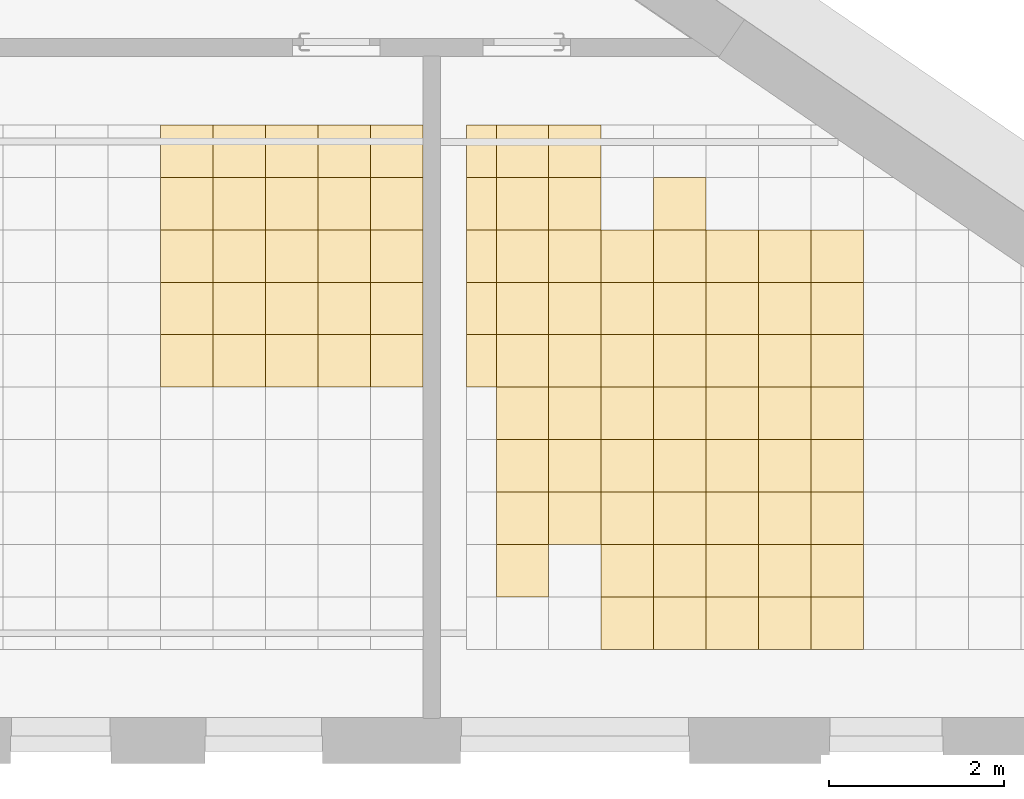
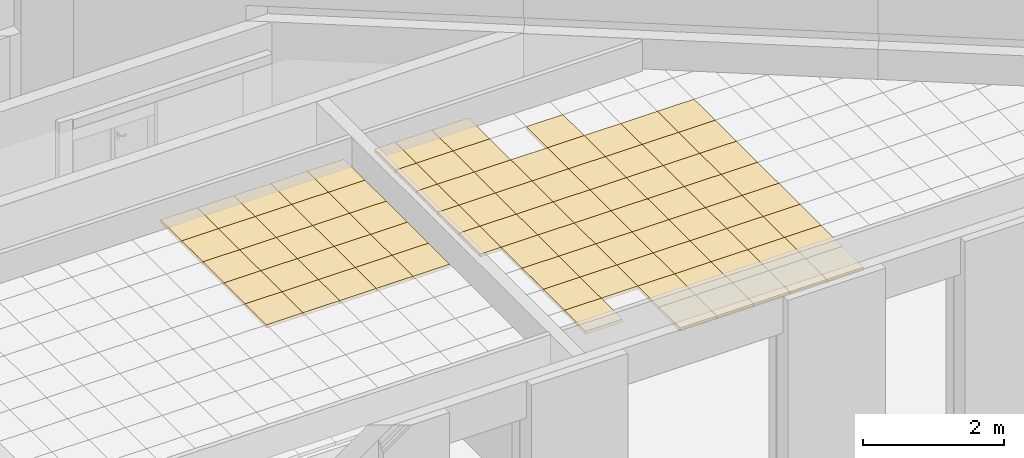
# One storey, part 75 of 79: 88 coverings.
"""IFC2X3 building model written with IfcOpenShell, lengths in millimetres."""

from ifc_helpers import new_model, entity, si_unit, converted_unit, derived_unit, money_unit, direction, frame, origin_with_axes, place, context, subcontext, project, spatial, faceted_brep, material, material_list, type_object, element, save


model = new_model("IFC2X3")

# Units and contexts
model_context = context("Model", 3, precision=0.01, world=origin_with_axes(), true_north=direction((0.0, 1.0)))
body_context = subcontext(model_context, "Body", "Model", "MODEL_VIEW")
ifc_project = project(units=[si_unit("LENGTHUNIT", "METRE", prefix="MILLI"), si_unit("AREAUNIT", "SQUARE_METRE"), si_unit("VOLUMEUNIT", "CUBIC_METRE"), converted_unit("PLANEANGLEUNIT", "DEGREE", entity("IfcPlaneAngleMeasure", 0.0174532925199), si_unit("PLANEANGLEUNIT", "RADIAN"), dimensions=[0, 0, 0, 0, 0, 0, 0]), si_unit("SOLIDANGLEUNIT", "STERADIAN"), money_unit("EUR"), converted_unit("TIMEUNIT", "Year", entity("IfcTimeMeasure", 31556926.0), si_unit("TIMEUNIT", "SECOND"), dimensions=[0, 0, 1, 0, 0, 0, 0]), si_unit("MASSUNIT", "GRAM", prefix="KILO"), si_unit("THERMODYNAMICTEMPERATUREUNIT", "DEGREE_CELSIUS"), si_unit("LUMINOUSINTENSITYUNIT", "LUMEN"), si_unit("ENERGYUNIT", "JOULE", prefix="MEGA"), derived_unit("THERMALCONDUCTANCEUNIT", [(si_unit("POWERUNIT", "WATT"), 1), (si_unit("LENGTHUNIT", "METRE"), -1), (si_unit("THERMODYNAMICTEMPERATUREUNIT", "KELVIN"), -1)]), derived_unit("SPECIFICHEATCAPACITYUNIT", [(si_unit("ENERGYUNIT", "JOULE"), 1), (si_unit("MASSUNIT", "GRAM", prefix="KILO"), -1), (si_unit("THERMODYNAMICTEMPERATUREUNIT", "KELVIN"), -1)]), derived_unit("MASSDENSITYUNIT", [(si_unit("MASSUNIT", "GRAM", prefix="KILO"), 1), (si_unit("VOLUMEUNIT", "CUBIC_METRE"), -1)])], contexts=[model_context])

# Site, building, storey
site_placement = place(None, origin_with_axes())
site = spatial("IfcSite", under=ifc_project, at=site_placement, Name="L.Koidula tn 11b", CompositionType="ELEMENT")
building_placement = place(site_placement, origin_with_axes())
building = spatial("IfcBuilding", under=site, at=building_placement, Name="Rakvere Riigigümnaasium", CompositionType="ELEMENT")
storey_placement = place(building_placement, frame((0.0, 0.0, 3720.0), z_axis=(0.0, 0.0, 1.0), x_axis=(1.0, 0.0, 0.0)))
storey = spatial("IfcBuildingStorey", under=building, at=storey_placement, Name="2.korrus +3,72", CompositionType="ELEMENT", Elevation=3720.0)

# Coverings
ifc_material_1 = material(Name="Karkass")
ifc_material_2 = material(Name="Kipsplaat")
ifc_material_list = material_list([ifc_material_1, ifc_material_2])
covering_type = type_object("IfcCoveringType", Name="SA-LV-Kips-moodul 55", PredefinedType="CEILING")
for number, where, z_axis, x_axis, name in (
    (1, (85469.744559, 9890.45359412, 2750.0), (0.0, 0.0, 1.0), (1.0, 0.0, 0.0), "L-03"),
    (2, (86669.7445073, 11690.4535941, 2750.0), (0.0, 0.0, 1.0), (1.0, 0.0, 0.0), "L-03"),
    (3, (86669.7445073, 9890.45359412, 2750.0), (0.0, 0.0, 1.0), (1.0, 0.0, 0.0), "L-03"),
    (4, (86669.7445073, 9290.45359412, 2750.0), (0.0, 0.0, 1.0), (1.0, 0.0, 0.0), "L-03"),
    (5, (87869.7444557, 9290.45359412, 2750.0), (0.0, 0.0, 1.0), (1.0, 0.0, 0.0), "L-03"),
    (6, (87869.7444557, 11090.4535941, 2750.0), (0.0, 0.0, 1.0), (1.0, 0.0, 0.0), "L-03"),
    (7, (87869.7444557, 9890.45359412, 2750.0), (0.0, 0.0, 1.0), (1.0, 0.0, 0.0), "L-03"),
    (8, (87869.7444557, 11690.4535941, 2750.0), (0.0, 0.0, 1.0), (1.0, 0.0, 0.0), "L-03"),
    (9, (87869.7444557, 10490.4535941, 2750.0), (0.0, 0.0, 1.0), (1.0, 0.0, 0.0), "L-03"),
):
    element("IfcCovering", number, at=place(storey_placement, frame(where, z_axis=z_axis, x_axis=x_axis)), inside=storey, type_object=covering_type, material=ifc_material_list, Name=name, PredefinedType="CEILING", context=body_context, shape_type="Brep", body=[
        faceted_brep([(600.0, 0.0, 12.5), (600.0, 0.0, 54.5), (0.0, 0.0, 54.5), (0.0, 0.0, 12.5), (600.0, 600.0, 12.5), (600.0, 600.0, 54.5), (0.0, 600.0, 54.5), (0.0, 600.0, 12.5)], [[[0, 1, 2, 3]], [[4, 5, 1, 0]], [[2, 1, 5, 6]], [[3, 2, 6, 7]], [[3, 7, 4, 0]], [[7, 6, 5, 4]]]),
        faceted_brep([(0.0, 0.0, 0.0), (600.0, 0.0, 0.0), (600.0, 0.0, 12.5), (0.0, 0.0, 12.5), (0.0, 600.0, 0.0), (600.0, 600.0, 0.0), (600.0, 600.0, 12.5), (0.0, 600.0, 12.5)], [[[0, 1, 2, 3]], [[0, 4, 5, 1]], [[1, 5, 6, 2]], [[3, 2, 6, 7]], [[4, 0, 3, 7]], [[5, 4, 7, 6]]]),
    ])
covering_1_placement = place(storey_placement, frame((87269.7445073, 11690.4535941, 2750.0), z_axis=(0.0, 0.0, 1.0), x_axis=(1.0, 0.0, 0.0)))
element("IfcCovering", 10, at=covering_1_placement, inside=storey, type_object=covering_type, material=ifc_material_list, Name="L-03", PredefinedType="CEILING", context=body_context, shape_type="Brep", body=[
    faceted_brep([(599.999948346, 0.0, 12.5), (599.999948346, 0.0, 54.5), (0.0, 0.0, 54.5), (0.0, 0.0, 12.5), (599.999948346, 600.0, 12.5), (599.999948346, 600.0, 54.5), (0.0, 600.0, 54.5), (0.0, 600.0, 12.5)], [[[0, 1, 2, 3]], [[4, 5, 1, 0]], [[2, 1, 5, 6]], [[3, 2, 6, 7]], [[3, 7, 4, 0]], [[7, 6, 5, 4]]]),
    faceted_brep([(0.0, 0.0, 0.0), (599.999948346, 0.0, 0.0), (599.999948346, 0.0, 12.5), (0.0, 0.0, 12.5), (0.0, 600.0, 0.0), (599.999948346, 600.0, 0.0), (599.999948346, 600.0, 12.5), (0.0, 600.0, 12.5)], [[[0, 1, 2, 3]], [[0, 4, 5, 1]], [[1, 5, 6, 2]], [[3, 2, 6, 7]], [[4, 0, 3, 7]], [[5, 4, 7, 6]]]),
])
covering_2_placement = place(storey_placement, frame((86669.7445073, 10490.4535941, 2750.0), z_axis=(0.0, 0.0, 1.0), x_axis=(1.0, 0.0, 0.0)))
element("IfcCovering", 11, at=covering_2_placement, inside=storey, type_object=covering_type, material=ifc_material_list, Name="L-03", PredefinedType="CEILING", context=body_context, shape_type="Brep", body=[
    faceted_brep([(600.0, 0.0, 12.5), (600.0, 0.0, 54.5), (0.0, 0.0, 54.5), (0.0, 0.0, 12.5), (600.0, 600.0, 12.5), (600.0, 600.0, 54.5), (0.0, 600.0, 54.5), (0.0, 600.0, 12.5)], [[[0, 1, 2, 3]], [[4, 5, 1, 0]], [[2, 1, 5, 6]], [[3, 2, 6, 7]], [[3, 7, 4, 0]], [[7, 6, 5, 4]]]),
    faceted_brep([(0.0, 0.0, 0.0), (600.0, 0.0, 0.0), (600.0, 0.0, 12.5), (0.0, 0.0, 12.5), (0.0, 600.0, 0.0), (600.0, 600.0, 0.0), (600.0, 600.0, 12.5), (0.0, 600.0, 12.5)], [[[0, 1, 2, 3]], [[0, 4, 5, 1]], [[1, 5, 6, 2]], [[3, 2, 6, 7]], [[4, 0, 3, 7]], [[5, 4, 7, 6]]]),
])
for number, where, z_axis, x_axis, name in (
    (12, (87269.7445073, 9290.45359412, 2750.0), (0.0, 0.0, 1.0), (1.0, 0.0, 0.0), "L-03"),
    (13, (87269.7445073, 9890.45359412, 2750.0), (0.0, 0.0, 1.0), (1.0, 0.0, 0.0), "L-03"),
    (14, (87269.7445073, 11090.4535941, 2750.0), (0.0, 0.0, 1.0), (1.0, 0.0, 0.0), "L-03"),
    (15, (87269.7445073, 10490.4535941, 2750.0), (0.0, 0.0, 1.0), (1.0, 0.0, 0.0), "L-03"),
):
    element("IfcCovering", number, at=place(storey_placement, frame(where, z_axis=z_axis, x_axis=x_axis)), inside=storey, type_object=covering_type, material=ifc_material_list, Name=name, PredefinedType="CEILING", context=body_context, shape_type="Brep", body=[
        faceted_brep([(599.999948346, 0.0, 12.5), (599.999948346, 0.0, 54.5), (0.0, 0.0, 54.5), (0.0, 0.0, 12.5), (599.999948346, 600.0, 12.5), (599.999948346, 600.0, 54.5), (0.0, 600.0, 54.5), (0.0, 600.0, 12.5)], [[[0, 1, 2, 3]], [[4, 5, 1, 0]], [[2, 1, 5, 6]], [[3, 2, 6, 7]], [[3, 7, 4, 0]], [[7, 6, 5, 4]]]),
        faceted_brep([(0.0, 0.0, 0.0), (599.999948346, 0.0, 0.0), (599.999948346, 0.0, 12.5), (0.0, 0.0, 12.5), (0.0, 600.0, 0.0), (599.999948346, 600.0, 0.0), (599.999948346, 600.0, 12.5), (0.0, 600.0, 12.5)], [[[0, 1, 2, 3]], [[0, 4, 5, 1]], [[1, 5, 6, 2]], [[3, 2, 6, 7]], [[4, 0, 3, 7]], [[5, 4, 7, 6]]]),
    ])
for number, where, z_axis, x_axis, name in (
    (16, (85469.744559, 9290.45359412, 2750.0), (0.0, 0.0, 1.0), (1.0, 0.0, 0.0), "L-03"),
    (17, (86669.7445073, 11090.4535941, 2750.0), (0.0, 0.0, 1.0), (1.0, 0.0, 0.0), "L-03"),
    (18, (85469.744559, 11690.4535941, 2750.0), (0.0, 0.0, 1.0), (1.0, 0.0, 0.0), "L-03"),
    (19, (85469.744559, 11090.4535941, 2750.0), (0.0, 0.0, 1.0), (1.0, 0.0, 0.0), "L-03"),
    (20, (85469.744559, 10490.4535941, 2750.0), (0.0, 0.0, 1.0), (1.0, 0.0, 0.0), "L-03"),
):
    element("IfcCovering", number, at=place(storey_placement, frame(where, z_axis=z_axis, x_axis=x_axis)), inside=storey, type_object=covering_type, material=ifc_material_list, Name=name, PredefinedType="CEILING", context=body_context, shape_type="Brep", body=[
        faceted_brep([(600.0, 0.0, 12.5), (600.0, 0.0, 54.5), (0.0, 0.0, 54.5), (0.0, 0.0, 12.5), (600.0, 600.0, 12.5), (600.0, 600.0, 54.5), (0.0, 600.0, 54.5), (0.0, 600.0, 12.5)], [[[0, 1, 2, 3]], [[4, 5, 1, 0]], [[2, 1, 5, 6]], [[3, 2, 6, 7]], [[3, 7, 4, 0]], [[7, 6, 5, 4]]]),
        faceted_brep([(0.0, 0.0, 0.0), (600.0, 0.0, 0.0), (600.0, 0.0, 12.5), (0.0, 0.0, 12.5), (0.0, 600.0, 0.0), (600.0, 600.0, 0.0), (600.0, 600.0, 12.5), (0.0, 600.0, 12.5)], [[[0, 1, 2, 3]], [[0, 4, 5, 1]], [[1, 5, 6, 2]], [[3, 2, 6, 7]], [[4, 0, 3, 7]], [[5, 4, 7, 6]]]),
    ])
for number, where, z_axis, x_axis, name in (
    (21, (86069.744559, 11690.4535941, 2750.0), (0.0, 0.0, 1.0), (1.0, 0.0, 0.0), "L-03"),
    (22, (86069.744559, 9290.45359412, 2750.0), (0.0, 0.0, 1.0), (1.0, 0.0, 0.0), "L-03"),
    (23, (86069.744559, 9890.45359412, 2750.0), (0.0, 0.0, 1.0), (1.0, 0.0, 0.0), "L-03"),
    (24, (86069.744559, 10490.4535941, 2750.0), (0.0, 0.0, 1.0), (1.0, 0.0, 0.0), "L-03"),
    (25, (86069.744559, 11090.4535941, 2750.0), (0.0, 0.0, 1.0), (1.0, 0.0, 0.0), "L-03"),
    (26, (91709.8850867, 9890.45359412, 2750.0), (0.0, 0.0, 1.0), (1.0, 0.0, 0.0), "L-03"),
):
    element("IfcCovering", number, at=place(storey_placement, frame(where, z_axis=z_axis, x_axis=x_axis)), inside=storey, type_object=covering_type, material=ifc_material_list, Name=name, PredefinedType="CEILING", context=body_context, shape_type="Brep", body=[
        faceted_brep([(599.999948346, 0.0, 12.5), (599.999948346, 0.0, 54.5), (0.0, 0.0, 54.5), (0.0, 0.0, 12.5), (599.999948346, 600.0, 12.5), (599.999948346, 600.0, 54.5), (0.0, 600.0, 54.5), (0.0, 600.0, 12.5)], [[[0, 1, 2, 3]], [[4, 5, 1, 0]], [[2, 1, 5, 6]], [[3, 2, 6, 7]], [[3, 7, 4, 0]], [[7, 6, 5, 4]]]),
        faceted_brep([(0.0, 0.0, 0.0), (599.999948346, 0.0, 0.0), (599.999948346, 0.0, 12.5), (0.0, 0.0, 12.5), (0.0, 600.0, 0.0), (599.999948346, 600.0, 0.0), (599.999948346, 600.0, 12.5), (0.0, 600.0, 12.5)], [[[0, 1, 2, 3]], [[0, 4, 5, 1]], [[1, 5, 6, 2]], [[3, 2, 6, 7]], [[4, 0, 3, 7]], [[5, 4, 7, 6]]]),
    ])
for number, where, z_axis, x_axis, name in (
    (27, (91109.8850867, 11090.4535941, 2750.0), (0.0, 0.0, 1.0), (1.0, 0.0, 0.0), "L-03"),
    (28, (91109.8850867, 10490.4535941, 2750.0), (0.0, 0.0, 1.0), (1.0, 0.0, 0.0), "L-03"),
    (29, (91109.8850867, 9890.45359412, 2750.0), (0.0, 0.0, 1.0), (1.0, 0.0, 0.0), "L-03"),
    (30, (91109.8850867, 9290.45359412, 2750.0), (0.0, 0.0, 1.0), (1.0, 0.0, 0.0), "L-03"),
    (31, (91109.8850867, 8690.45359412, 2750.0), (0.0, 0.0, 1.0), (1.0, 0.0, 0.0), "L-03"),
    (32, (91109.8850867, 8090.45359412, 2750.0), (0.0, 0.0, 1.0), (1.0, 0.0, 0.0), "L-03"),
    (33, (91109.8850867, 7490.45359412, 2750.0), (0.0, 0.0, 1.0), (1.0, 0.0, 0.0), "L-03"),
    (34, (92309.8850351, 6890.45359412, 2750.0), (0.0, 0.0, 1.0), (1.0, 0.0, 0.0), "L-03"),
):
    element("IfcCovering", number, at=place(storey_placement, frame(where, z_axis=z_axis, x_axis=x_axis)), inside=storey, type_object=covering_type, material=ifc_material_list, Name=name, PredefinedType="CEILING", context=body_context, shape_type="Brep", body=[
        faceted_brep([(600.0, 0.0, 12.5), (600.0, 0.0, 54.5), (0.0, 0.0, 54.5), (0.0, 0.0, 12.5), (600.0, 600.0, 12.5), (600.0, 600.0, 54.5), (0.0, 600.0, 54.5), (0.0, 600.0, 12.5)], [[[0, 1, 2, 3]], [[4, 5, 1, 0]], [[2, 1, 5, 6]], [[3, 2, 6, 7]], [[3, 7, 4, 0]], [[7, 6, 5, 4]]]),
        faceted_brep([(0.0, 0.0, 0.0), (600.0, 0.0, 0.0), (600.0, 0.0, 12.5), (0.0, 0.0, 12.5), (0.0, 600.0, 0.0), (600.0, 600.0, 0.0), (600.0, 600.0, 12.5), (0.0, 600.0, 12.5)], [[[0, 1, 2, 3]], [[0, 4, 5, 1]], [[1, 5, 6, 2]], [[3, 2, 6, 7]], [[4, 0, 3, 7]], [[5, 4, 7, 6]]]),
    ])
for number, where, z_axis, x_axis, name in (
    (35, (91709.8850867, 6890.45359412, 2750.0), (0.0, 0.0, 1.0), (1.0, 0.0, 0.0), "L-03"),
    (36, (91709.8850867, 6290.45359412, 2750.0), (0.0, 0.0, 1.0), (1.0, 0.0, 0.0), "L-03"),
):
    element("IfcCovering", number, at=place(storey_placement, frame(where, z_axis=z_axis, x_axis=x_axis)), inside=storey, type_object=covering_type, material=ifc_material_list, Name=name, PredefinedType="CEILING", context=body_context, shape_type="Brep", body=[
        faceted_brep([(599.999948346, 0.0, 12.5), (599.999948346, 0.0, 54.5), (0.0, 0.0, 54.5), (0.0, 0.0, 12.5), (599.999948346, 600.0, 12.5), (599.999948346, 600.0, 54.5), (0.0, 600.0, 54.5), (0.0, 600.0, 12.5)], [[[0, 1, 2, 3]], [[4, 5, 1, 0]], [[2, 1, 5, 6]], [[3, 2, 6, 7]], [[3, 7, 4, 0]], [[7, 6, 5, 4]]]),
        faceted_brep([(0.0, 0.0, 0.0), (599.999948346, 0.0, 0.0), (599.999948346, 0.0, 12.5), (0.0, 0.0, 12.5), (0.0, 600.0, 0.0), (599.999948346, 600.0, 0.0), (599.999948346, 600.0, 12.5), (0.0, 600.0, 12.5)], [[[0, 1, 2, 3]], [[0, 4, 5, 1]], [[1, 5, 6, 2]], [[3, 2, 6, 7]], [[4, 0, 3, 7]], [[5, 4, 7, 6]]]),
    ])
for number, where, z_axis, x_axis, name in (
    (37, (92309.8850351, 6290.45359412, 2750.0), (0.0, 0.0, 1.0), (1.0, 0.0, 0.0), "L-03"),
    (38, (92309.8850351, 10490.4535941, 2750.0), (0.0, 0.0, 1.0), (1.0, 0.0, 0.0), "L-03"),
    (39, (92309.8850351, 9890.45359412, 2750.0), (0.0, 0.0, 1.0), (1.0, 0.0, 0.0), "L-03"),
    (40, (92309.8850351, 8090.45359412, 2750.0), (0.0, 0.0, 1.0), (1.0, 0.0, 0.0), "L-03"),
    (41, (92309.8850351, 8690.45359412, 2750.0), (0.0, 0.0, 1.0), (1.0, 0.0, 0.0), "L-03"),
    (42, (92309.8850351, 9290.45359412, 2750.0), (0.0, 0.0, 1.0), (1.0, 0.0, 0.0), "L-03"),
):
    element("IfcCovering", number, at=place(storey_placement, frame(where, z_axis=z_axis, x_axis=x_axis)), inside=storey, type_object=covering_type, material=ifc_material_list, Name=name, PredefinedType="CEILING", context=body_context, shape_type="Brep", body=[
        faceted_brep([(600.0, 0.0, 12.5), (600.0, 0.0, 54.5), (0.0, 0.0, 54.5), (0.0, 0.0, 12.5), (600.0, 600.0, 12.5), (600.0, 600.0, 54.5), (0.0, 600.0, 54.5), (0.0, 600.0, 12.5)], [[[0, 1, 2, 3]], [[4, 5, 1, 0]], [[2, 1, 5, 6]], [[3, 2, 6, 7]], [[3, 7, 4, 0]], [[7, 6, 5, 4]]]),
        faceted_brep([(0.0, 0.0, 0.0), (600.0, 0.0, 0.0), (600.0, 0.0, 12.5), (0.0, 0.0, 12.5), (0.0, 600.0, 0.0), (600.0, 600.0, 0.0), (600.0, 600.0, 12.5), (0.0, 600.0, 12.5)], [[[0, 1, 2, 3]], [[0, 4, 5, 1]], [[1, 5, 6, 2]], [[3, 2, 6, 7]], [[4, 0, 3, 7]], [[5, 4, 7, 6]]]),
    ])
for number, where, z_axis, x_axis, name in (
    (43, (92909.8850351, 6290.45359412, 2750.0), (0.0, 0.0, 1.0), (1.0, 0.0, 0.0), "L-03"),
    (44, (92909.8850351, 6890.45359412, 2750.0), (0.0, 0.0, 1.0), (1.0, 0.0, 0.0), "L-03"),
    (45, (91709.8850867, 8090.45359412, 2750.0), (0.0, 0.0, 1.0), (1.0, 0.0, 0.0), "L-03"),
):
    element("IfcCovering", number, at=place(storey_placement, frame(where, z_axis=z_axis, x_axis=x_axis)), inside=storey, type_object=covering_type, material=ifc_material_list, Name=name, PredefinedType="CEILING", context=body_context, shape_type="Brep", body=[
        faceted_brep([(599.999948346, 0.0, 12.5), (599.999948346, 0.0, 54.5), (0.0, 0.0, 54.5), (0.0, 0.0, 12.5), (599.999948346, 600.0, 12.5), (599.999948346, 600.0, 54.5), (0.0, 600.0, 54.5), (0.0, 600.0, 12.5)], [[[0, 1, 2, 3]], [[4, 5, 1, 0]], [[2, 1, 5, 6]], [[3, 2, 6, 7]], [[3, 7, 4, 0]], [[7, 6, 5, 4]]]),
        faceted_brep([(0.0, 0.0, 0.0), (599.999948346, 0.0, 0.0), (599.999948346, 0.0, 12.5), (0.0, 0.0, 12.5), (0.0, 600.0, 0.0), (599.999948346, 600.0, 0.0), (599.999948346, 600.0, 12.5), (0.0, 600.0, 12.5)], [[[0, 1, 2, 3]], [[0, 4, 5, 1]], [[1, 5, 6, 2]], [[3, 2, 6, 7]], [[4, 0, 3, 7]], [[5, 4, 7, 6]]]),
    ])
covering_3_placement = place(storey_placement, frame((92309.8850351, 7490.45359412, 2750.0), z_axis=(0.0, 0.0, 1.0), x_axis=(1.0, 0.0, 0.0)))
element("IfcCovering", 46, at=covering_3_placement, inside=storey, type_object=covering_type, material=ifc_material_list, Name="L-03", PredefinedType="CEILING", context=body_context, shape_type="Brep", body=[
    faceted_brep([(600.0, 0.0, 12.5), (600.0, 0.0, 54.5), (0.0, 0.0, 54.5), (0.0, 0.0, 12.5), (600.0, 600.0, 12.5), (600.0, 600.0, 54.5), (0.0, 600.0, 54.5), (0.0, 600.0, 12.5)], [[[0, 1, 2, 3]], [[4, 5, 1, 0]], [[2, 1, 5, 6]], [[3, 2, 6, 7]], [[3, 7, 4, 0]], [[7, 6, 5, 4]]]),
    faceted_brep([(0.0, 0.0, 0.0), (600.0, 0.0, 0.0), (600.0, 0.0, 12.5), (0.0, 0.0, 12.5), (0.0, 600.0, 0.0), (600.0, 600.0, 0.0), (600.0, 600.0, 12.5), (0.0, 600.0, 12.5)], [[[0, 1, 2, 3]], [[0, 4, 5, 1]], [[1, 5, 6, 2]], [[3, 2, 6, 7]], [[4, 0, 3, 7]], [[5, 4, 7, 6]]]),
])
for number, where, z_axis, x_axis, name in (
    (47, (91709.8850867, 7490.45359412, 2750.0), (0.0, 0.0, 1.0), (1.0, 0.0, 0.0), "L-03"),
    (48, (91709.8850867, 8690.45359412, 2750.0), (0.0, 0.0, 1.0), (1.0, 0.0, 0.0), "L-03"),
):
    element("IfcCovering", number, at=place(storey_placement, frame(where, z_axis=z_axis, x_axis=x_axis)), inside=storey, type_object=covering_type, material=ifc_material_list, Name=name, PredefinedType="CEILING", context=body_context, shape_type="Brep", body=[
        faceted_brep([(599.999948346, 0.0, 12.5), (599.999948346, 0.0, 54.5), (0.0, 0.0, 54.5), (0.0, 0.0, 12.5), (599.999948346, 600.0, 12.5), (599.999948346, 600.0, 54.5), (0.0, 600.0, 54.5), (0.0, 600.0, 12.5)], [[[0, 1, 2, 3]], [[4, 5, 1, 0]], [[2, 1, 5, 6]], [[3, 2, 6, 7]], [[3, 7, 4, 0]], [[7, 6, 5, 4]]]),
        faceted_brep([(0.0, 0.0, 0.0), (599.999948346, 0.0, 0.0), (599.999948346, 0.0, 12.5), (0.0, 0.0, 12.5), (0.0, 600.0, 0.0), (599.999948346, 600.0, 0.0), (599.999948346, 600.0, 12.5), (0.0, 600.0, 12.5)], [[[0, 1, 2, 3]], [[0, 4, 5, 1]], [[1, 5, 6, 2]], [[3, 2, 6, 7]], [[4, 0, 3, 7]], [[5, 4, 7, 6]]]),
    ])
covering_4_placement = place(storey_placement, frame((91109.8850867, 6890.45359412, 2750.0), z_axis=(0.0, 0.0, 1.0), x_axis=(1.0, 0.0, 0.0)))
element("IfcCovering", 49, at=covering_4_placement, inside=storey, type_object=covering_type, material=ifc_material_list, Name="L-03", PredefinedType="CEILING", context=body_context, shape_type="Brep", body=[
    faceted_brep([(600.0, 0.0, 12.5), (600.0, 0.0, 54.5), (0.0, 0.0, 54.5), (0.0, 0.0, 12.5), (600.0, 600.0, 12.5), (600.0, 600.0, 54.5), (0.0, 600.0, 54.5), (0.0, 600.0, 12.5)], [[[0, 1, 2, 3]], [[4, 5, 1, 0]], [[2, 1, 5, 6]], [[3, 2, 6, 7]], [[3, 7, 4, 0]], [[7, 6, 5, 4]]]),
    faceted_brep([(0.0, 0.0, 0.0), (600.0, 0.0, 0.0), (600.0, 0.0, 12.5), (0.0, 0.0, 12.5), (0.0, 600.0, 0.0), (600.0, 600.0, 0.0), (600.0, 600.0, 12.5), (0.0, 600.0, 12.5)], [[[0, 1, 2, 3]], [[0, 4, 5, 1]], [[1, 5, 6, 2]], [[3, 2, 6, 7]], [[4, 0, 3, 7]], [[5, 4, 7, 6]]]),
])
for number, where, z_axis, x_axis, name in (
    (50, (91709.8850867, 9290.45359412, 2750.0), (0.0, 0.0, 1.0), (1.0, 0.0, 0.0), "L-03"),
    (51, (91709.8850867, 10490.4535941, 2750.0), (0.0, 0.0, 1.0), (1.0, 0.0, 0.0), "L-03"),
    (52, (90509.8851384, 6290.45359412, 2750.0), (0.0, 0.0, 1.0), (1.0, 0.0, 0.0), "L-03"),
    (53, (92909.8850351, 10490.4535941, 2750.0), (0.0, 0.0, 1.0), (1.0, 0.0, 0.0), "L-03"),
    (54, (92909.8850351, 9290.45359412, 2750.0), (0.0, 0.0, 1.0), (1.0, 0.0, 0.0), "L-03"),
    (55, (92909.8850351, 9890.45359412, 2750.0), (0.0, 0.0, 1.0), (1.0, 0.0, 0.0), "L-03"),
):
    element("IfcCovering", number, at=place(storey_placement, frame(where, z_axis=z_axis, x_axis=x_axis)), inside=storey, type_object=covering_type, material=ifc_material_list, Name=name, PredefinedType="CEILING", context=body_context, shape_type="Brep", body=[
        faceted_brep([(599.999948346, 0.0, 12.5), (599.999948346, 0.0, 54.5), (0.0, 0.0, 54.5), (0.0, 0.0, 12.5), (599.999948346, 600.0, 12.5), (599.999948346, 600.0, 54.5), (0.0, 600.0, 54.5), (0.0, 600.0, 12.5)], [[[0, 1, 2, 3]], [[4, 5, 1, 0]], [[2, 1, 5, 6]], [[3, 2, 6, 7]], [[3, 7, 4, 0]], [[7, 6, 5, 4]]]),
        faceted_brep([(0.0, 0.0, 0.0), (599.999948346, 0.0, 0.0), (599.999948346, 0.0, 12.5), (0.0, 0.0, 12.5), (0.0, 600.0, 0.0), (599.999948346, 600.0, 0.0), (599.999948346, 600.0, 12.5), (0.0, 600.0, 12.5)], [[[0, 1, 2, 3]], [[0, 4, 5, 1]], [[1, 5, 6, 2]], [[3, 2, 6, 7]], [[4, 0, 3, 7]], [[5, 4, 7, 6]]]),
    ])
for number, where, z_axis, x_axis, name in (
    (56, (89909.8851384, 11690.4535941, 2750.0), (0.0, 0.0, 1.0), (1.0, 0.0, 0.0), "L-03"),
    (57, (89909.8851384, 11090.4535941, 2750.0), (0.0, 0.0, 1.0), (1.0, 0.0, 0.0), "L-03"),
):
    element("IfcCovering", number, at=place(storey_placement, frame(where, z_axis=z_axis, x_axis=x_axis)), inside=storey, type_object=covering_type, material=ifc_material_list, Name=name, PredefinedType="CEILING", context=body_context, shape_type="Brep", body=[
        faceted_brep([(600.0, 0.0, 12.5), (600.0, 0.0, 54.5), (0.0, 0.0, 54.5), (0.0, 0.0, 12.5), (600.0, 600.0, 12.5), (600.0, 600.0, 54.5), (0.0, 600.0, 54.5), (0.0, 600.0, 12.5)], [[[0, 1, 2, 3]], [[4, 5, 1, 0]], [[2, 1, 5, 6]], [[3, 2, 6, 7]], [[3, 7, 4, 0]], [[7, 6, 5, 4]]]),
        faceted_brep([(0.0, 0.0, 0.0), (600.0, 0.0, 0.0), (600.0, 0.0, 12.5), (0.0, 0.0, 12.5), (0.0, 600.0, 0.0), (600.0, 600.0, 0.0), (600.0, 600.0, 12.5), (0.0, 600.0, 12.5)], [[[0, 1, 2, 3]], [[0, 4, 5, 1]], [[1, 5, 6, 2]], [[3, 2, 6, 7]], [[4, 0, 3, 7]], [[5, 4, 7, 6]]]),
    ])
covering_5_placement = place(storey_placement, frame((92909.8850351, 8690.45359412, 2750.0), z_axis=(0.0, 0.0, 1.0), x_axis=(1.0, 0.0, 0.0)))
element("IfcCovering", 58, at=covering_5_placement, inside=storey, type_object=covering_type, material=ifc_material_list, Name="L-03", PredefinedType="CEILING", context=body_context, shape_type="Brep", body=[
    faceted_brep([(599.999948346, 0.0, 12.5), (599.999948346, 0.0, 54.5), (0.0, 0.0, 54.5), (0.0, 0.0, 12.5), (599.999948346, 600.0, 12.5), (599.999948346, 600.0, 54.5), (0.0, 600.0, 54.5), (0.0, 600.0, 12.5)], [[[0, 1, 2, 3]], [[4, 5, 1, 0]], [[2, 1, 5, 6]], [[3, 2, 6, 7]], [[3, 7, 4, 0]], [[7, 6, 5, 4]]]),
    faceted_brep([(0.0, 0.0, 0.0), (599.999948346, 0.0, 0.0), (599.999948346, 0.0, 12.5), (0.0, 0.0, 12.5), (0.0, 600.0, 0.0), (599.999948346, 600.0, 0.0), (599.999948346, 600.0, 12.5), (0.0, 600.0, 12.5)], [[[0, 1, 2, 3]], [[0, 4, 5, 1]], [[1, 5, 6, 2]], [[3, 2, 6, 7]], [[4, 0, 3, 7]], [[5, 4, 7, 6]]]),
])
for number, where, z_axis, x_axis, name in (
    (59, (89909.8851384, 10490.4535941, 2750.0), (0.0, 0.0, 1.0), (1.0, 0.0, 0.0), "L-03"),
    (60, (91109.8850867, 6290.45359412, 2750.0), (0.0, 0.0, 1.0), (1.0, 0.0, 0.0), "L-03"),
    (61, (89909.8851384, 9290.45359412, 2750.0), (0.0, 0.0, 1.0), (1.0, 0.0, 0.0), "L-03"),
    (62, (89909.8851384, 9890.45359412, 2750.0), (0.0, 0.0, 1.0), (1.0, 0.0, 0.0), "L-03"),
):
    element("IfcCovering", number, at=place(storey_placement, frame(where, z_axis=z_axis, x_axis=x_axis)), inside=storey, type_object=covering_type, material=ifc_material_list, Name=name, PredefinedType="CEILING", context=body_context, shape_type="Brep", body=[
        faceted_brep([(600.0, 0.0, 12.5), (600.0, 0.0, 54.5), (0.0, 0.0, 54.5), (0.0, 0.0, 12.5), (600.0, 600.0, 12.5), (600.0, 600.0, 54.5), (0.0, 600.0, 54.5), (0.0, 600.0, 12.5)], [[[0, 1, 2, 3]], [[4, 5, 1, 0]], [[2, 1, 5, 6]], [[3, 2, 6, 7]], [[3, 7, 4, 0]], [[7, 6, 5, 4]]]),
        faceted_brep([(0.0, 0.0, 0.0), (600.0, 0.0, 0.0), (600.0, 0.0, 12.5), (0.0, 0.0, 12.5), (0.0, 600.0, 0.0), (600.0, 600.0, 0.0), (600.0, 600.0, 12.5), (0.0, 600.0, 12.5)], [[[0, 1, 2, 3]], [[0, 4, 5, 1]], [[1, 5, 6, 2]], [[3, 2, 6, 7]], [[4, 0, 3, 7]], [[5, 4, 7, 6]]]),
    ])
for number, where, z_axis, x_axis, name in (
    (63, (92909.8850351, 7490.45359412, 2750.0), (0.0, 0.0, 1.0), (1.0, 0.0, 0.0), "L-03"),
    (64, (90509.8851384, 6890.45359412, 2750.0), (0.0, 0.0, 1.0), (1.0, 0.0, 0.0), "L-03"),
):
    element("IfcCovering", number, at=place(storey_placement, frame(where, z_axis=z_axis, x_axis=x_axis)), inside=storey, type_object=covering_type, material=ifc_material_list, Name=name, PredefinedType="CEILING", context=body_context, shape_type="Brep", body=[
        faceted_brep([(599.999948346, 0.0, 12.5), (599.999948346, 0.0, 54.5), (0.0, 0.0, 54.5), (0.0, 0.0, 12.5), (599.999948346, 600.0, 12.5), (599.999948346, 600.0, 54.5), (0.0, 600.0, 54.5), (0.0, 600.0, 12.5)], [[[0, 1, 2, 3]], [[4, 5, 1, 0]], [[2, 1, 5, 6]], [[3, 2, 6, 7]], [[3, 7, 4, 0]], [[7, 6, 5, 4]]]),
        faceted_brep([(0.0, 0.0, 0.0), (599.999948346, 0.0, 0.0), (599.999948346, 0.0, 12.5), (0.0, 0.0, 12.5), (0.0, 600.0, 0.0), (599.999948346, 600.0, 0.0), (599.999948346, 600.0, 12.5), (0.0, 600.0, 12.5)], [[[0, 1, 2, 3]], [[0, 4, 5, 1]], [[1, 5, 6, 2]], [[3, 2, 6, 7]], [[4, 0, 3, 7]], [[5, 4, 7, 6]]]),
    ])
for number, where, z_axis, x_axis, name in (
    (65, (89909.8851384, 7490.45359412, 2750.0), (0.0, 0.0, 1.0), (1.0, 0.0, 0.0), "L-03"),
    (66, (89909.8851384, 8090.45359412, 2750.0), (0.0, 0.0, 1.0), (1.0, 0.0, 0.0), "L-03"),
):
    element("IfcCovering", number, at=place(storey_placement, frame(where, z_axis=z_axis, x_axis=x_axis)), inside=storey, type_object=covering_type, material=ifc_material_list, Name=name, PredefinedType="CEILING", context=body_context, shape_type="Brep", body=[
        faceted_brep([(600.0, 0.0, 12.5), (600.0, 0.0, 54.5), (0.0, 0.0, 54.5), (0.0, 0.0, 12.5), (600.0, 600.0, 12.5), (600.0, 600.0, 54.5), (0.0, 600.0, 54.5), (0.0, 600.0, 12.5)], [[[0, 1, 2, 3]], [[4, 5, 1, 0]], [[2, 1, 5, 6]], [[3, 2, 6, 7]], [[3, 7, 4, 0]], [[7, 6, 5, 4]]]),
        faceted_brep([(0.0, 0.0, 0.0), (600.0, 0.0, 0.0), (600.0, 0.0, 12.5), (0.0, 0.0, 12.5), (0.0, 600.0, 0.0), (600.0, 600.0, 0.0), (600.0, 600.0, 12.5), (0.0, 600.0, 12.5)], [[[0, 1, 2, 3]], [[0, 4, 5, 1]], [[1, 5, 6, 2]], [[3, 2, 6, 7]], [[4, 0, 3, 7]], [[5, 4, 7, 6]]]),
    ])
covering_6_placement = place(storey_placement, frame((92909.8850351, 8090.45359412, 2750.0), z_axis=(0.0, 0.0, 1.0), x_axis=(1.0, 0.0, 0.0)))
element("IfcCovering", 67, at=covering_6_placement, inside=storey, type_object=covering_type, material=ifc_material_list, Name="L-03", PredefinedType="CEILING", context=body_context, shape_type="Brep", body=[
    faceted_brep([(599.999948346, 0.0, 12.5), (599.999948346, 0.0, 54.5), (0.0, 0.0, 54.5), (0.0, 0.0, 12.5), (599.999948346, 600.0, 12.5), (599.999948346, 600.0, 54.5), (0.0, 600.0, 54.5), (0.0, 600.0, 12.5)], [[[0, 1, 2, 3]], [[4, 5, 1, 0]], [[2, 1, 5, 6]], [[3, 2, 6, 7]], [[3, 7, 4, 0]], [[7, 6, 5, 4]]]),
    faceted_brep([(0.0, 0.0, 0.0), (599.999948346, 0.0, 0.0), (599.999948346, 0.0, 12.5), (0.0, 0.0, 12.5), (0.0, 600.0, 0.0), (599.999948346, 600.0, 0.0), (599.999948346, 600.0, 12.5), (0.0, 600.0, 12.5)], [[[0, 1, 2, 3]], [[0, 4, 5, 1]], [[1, 5, 6, 2]], [[3, 2, 6, 7]], [[4, 0, 3, 7]], [[5, 4, 7, 6]]]),
])
covering_7_placement = place(storey_placement, frame((89909.8851384, 8690.45359412, 2750.0), z_axis=(0.0, 0.0, 1.0), x_axis=(1.0, 0.0, 0.0)))
element("IfcCovering", 68, at=covering_7_placement, inside=storey, type_object=covering_type, material=ifc_material_list, Name="L-03", PredefinedType="CEILING", context=body_context, shape_type="Brep", body=[
    faceted_brep([(600.0, 0.0, 12.5), (600.0, 0.0, 54.5), (0.0, 0.0, 54.5), (0.0, 0.0, 12.5), (600.0, 600.0, 12.5), (600.0, 600.0, 54.5), (0.0, 600.0, 54.5), (0.0, 600.0, 12.5)], [[[0, 1, 2, 3]], [[4, 5, 1, 0]], [[2, 1, 5, 6]], [[3, 2, 6, 7]], [[3, 7, 4, 0]], [[7, 6, 5, 4]]]),
    faceted_brep([(0.0, 0.0, 0.0), (600.0, 0.0, 0.0), (600.0, 0.0, 12.5), (0.0, 0.0, 12.5), (0.0, 600.0, 0.0), (600.0, 600.0, 0.0), (600.0, 600.0, 12.5), (0.0, 600.0, 12.5)], [[[0, 1, 2, 3]], [[0, 4, 5, 1]], [[1, 5, 6, 2]], [[3, 2, 6, 7]], [[4, 0, 3, 7]], [[5, 4, 7, 6]]]),
])
for number, where, z_axis, x_axis, name in (
    (69, (90509.8851384, 8690.45359412, 2750.0), (0.0, 0.0, 1.0), (1.0, 0.0, 0.0), "L-03"),
    (70, (90509.8851384, 9290.45359412, 2750.0), (0.0, 0.0, 1.0), (1.0, 0.0, 0.0), "L-03"),
    (71, (90509.8851384, 9890.45359412, 2750.0), (0.0, 0.0, 1.0), (1.0, 0.0, 0.0), "L-03"),
    (72, (90509.8851384, 10490.4535941, 2750.0), (0.0, 0.0, 1.0), (1.0, 0.0, 0.0), "L-03"),
):
    element("IfcCovering", number, at=place(storey_placement, frame(where, z_axis=z_axis, x_axis=x_axis)), inside=storey, type_object=covering_type, material=ifc_material_list, Name=name, PredefinedType="CEILING", context=body_context, shape_type="Brep", body=[
        faceted_brep([(599.999948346, 0.0, 12.5), (599.999948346, 0.0, 54.5), (0.0, 0.0, 54.5), (0.0, 0.0, 12.5), (599.999948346, 600.0, 12.5), (599.999948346, 600.0, 54.5), (0.0, 600.0, 54.5), (0.0, 600.0, 12.5)], [[[0, 1, 2, 3]], [[4, 5, 1, 0]], [[2, 1, 5, 6]], [[3, 2, 6, 7]], [[3, 7, 4, 0]], [[7, 6, 5, 4]]]),
        faceted_brep([(0.0, 0.0, 0.0), (599.999948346, 0.0, 0.0), (599.999948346, 0.0, 12.5), (0.0, 0.0, 12.5), (0.0, 600.0, 0.0), (599.999948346, 600.0, 0.0), (599.999948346, 600.0, 12.5), (0.0, 600.0, 12.5)], [[[0, 1, 2, 3]], [[0, 4, 5, 1]], [[1, 5, 6, 2]], [[3, 2, 6, 7]], [[4, 0, 3, 7]], [[5, 4, 7, 6]]]),
    ])
for number, where, z_axis, x_axis, name in (
    (73, (88970.0000019, 11690.4535941, 2750.0), (0.0, 0.0, 1.0), (1.0, 0.0, 0.0), "L-03"),
    (74, (88970.0000019, 11090.4535941, 2750.0), (0.0, 0.0, 1.0), (1.0, 0.0, 0.0), "L-03"),
    (75, (88970.0000019, 10490.4535941, 2750.0), (0.0, 0.0, 1.0), (1.0, 0.0, 0.0), "L-03"),
    (76, (88970.0000019, 9890.45359412, 2750.0), (0.0, 0.0, 1.0), (1.0, 0.0, 0.0), "L-03"),
    (77, (88970.0000019, 9290.45359412, 2750.0), (0.0, 0.0, 1.0), (1.0, 0.0, 0.0), "L-03"),
):
    element("IfcCovering", number, at=place(storey_placement, frame(where, z_axis=z_axis, x_axis=x_axis)), inside=storey, type_object=covering_type, material=ifc_material_list, Name=name, PredefinedType="CEILING", context=body_context, shape_type="Brep", body=[
        faceted_brep([(339.885188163, 0.0, 12.5), (339.885188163, 0.0, 54.5), (0.0, 0.0, 54.5), (0.0, 0.0, 12.5), (339.885188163, 600.0, 12.5), (339.885188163, 600.0, 54.5), (0.0, 600.0, 54.5), (0.0, 600.0, 12.5)], [[[0, 1, 2, 3]], [[4, 5, 1, 0]], [[2, 1, 5, 6]], [[3, 2, 6, 7]], [[3, 7, 4, 0]], [[7, 6, 5, 4]]]),
        faceted_brep([(0.0, 0.0, 0.0), (339.885188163, 0.0, 0.0), (339.885188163, 0.0, 12.5), (0.0, 0.0, 12.5), (0.0, 600.0, 0.0), (339.885188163, 600.0, 0.0), (339.885188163, 600.0, 12.5), (0.0, 600.0, 12.5)], [[[0, 1, 2, 3]], [[0, 4, 5, 1]], [[1, 5, 6, 2]], [[3, 2, 6, 7]], [[4, 0, 3, 7]], [[5, 4, 7, 6]]]),
    ])
for number, where, z_axis, x_axis, name in (
    (78, (89309.88519, 6890.45359412, 2750.0), (0.0, 0.0, 1.0), (1.0, 0.0, 0.0), "L-03"),
    (79, (89309.88519, 7490.45359412, 2750.0), (0.0, 0.0, 1.0), (1.0, 0.0, 0.0), "L-03"),
    (80, (90509.8851384, 8090.45359412, 2750.0), (0.0, 0.0, 1.0), (1.0, 0.0, 0.0), "L-03"),
    (81, (89309.88519, 11690.4535941, 2750.0), (0.0, 0.0, 1.0), (1.0, 0.0, 0.0), "L-03"),
    (82, (89309.88519, 8090.45359412, 2750.0), (0.0, 0.0, 1.0), (1.0, 0.0, 0.0), "L-03"),
    (83, (90509.8851384, 7490.45359412, 2750.0), (0.0, 0.0, 1.0), (1.0, 0.0, 0.0), "L-03"),
    (84, (89309.88519, 8690.45359412, 2750.0), (0.0, 0.0, 1.0), (1.0, 0.0, 0.0), "L-03"),
    (85, (89309.88519, 9290.45359412, 2750.0), (0.0, 0.0, 1.0), (1.0, 0.0, 0.0), "L-03"),
    (86, (89309.88519, 10490.4535941, 2750.0), (0.0, 0.0, 1.0), (1.0, 0.0, 0.0), "L-03"),
    (87, (89309.88519, 9890.45359412, 2750.0), (0.0, 0.0, 1.0), (1.0, 0.0, 0.0), "L-03"),
    (88, (89309.88519, 11090.4535941, 2750.0), (0.0, 0.0, 1.0), (1.0, 0.0, 0.0), "L-03"),
):
    element("IfcCovering", number, at=place(storey_placement, frame(where, z_axis=z_axis, x_axis=x_axis)), inside=storey, type_object=covering_type, material=ifc_material_list, Name=name, PredefinedType="CEILING", context=body_context, shape_type="Brep", body=[
        faceted_brep([(599.999948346, 0.0, 12.5), (599.999948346, 0.0, 54.5), (0.0, 0.0, 54.5), (0.0, 0.0, 12.5), (599.999948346, 600.0, 12.5), (599.999948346, 600.0, 54.5), (0.0, 600.0, 54.5), (0.0, 600.0, 12.5)], [[[0, 1, 2, 3]], [[4, 5, 1, 0]], [[2, 1, 5, 6]], [[3, 2, 6, 7]], [[3, 7, 4, 0]], [[7, 6, 5, 4]]]),
        faceted_brep([(0.0, 0.0, 0.0), (599.999948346, 0.0, 0.0), (599.999948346, 0.0, 12.5), (0.0, 0.0, 12.5), (0.0, 600.0, 0.0), (599.999948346, 600.0, 0.0), (599.999948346, 600.0, 12.5), (0.0, 600.0, 12.5)], [[[0, 1, 2, 3]], [[0, 4, 5, 1]], [[1, 5, 6, 2]], [[3, 2, 6, 7]], [[4, 0, 3, 7]], [[5, 4, 7, 6]]]),
    ])

save(model, "model.ifc")
